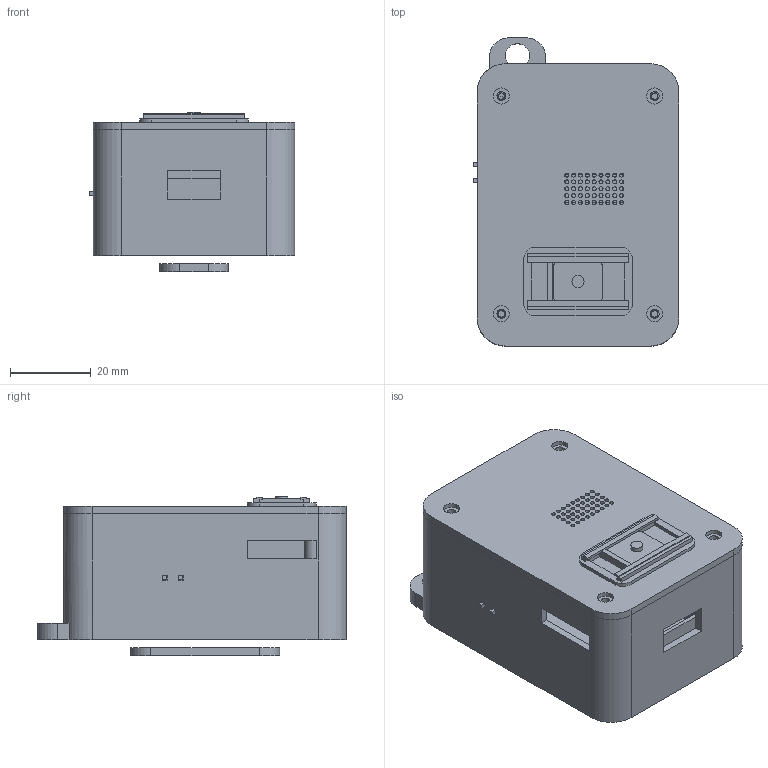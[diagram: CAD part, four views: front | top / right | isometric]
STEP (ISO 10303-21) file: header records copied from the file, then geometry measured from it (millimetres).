
FILE_DESCRIPTION(('Open CASCADE Model'),'2;1');
FILE_NAME('Open CASCADE Shape Model','2026-09-08T09:11:55',('Author'),( 'Open CASCADE'),'Open CASCADE STEP processor 7.9','Open CASCADE 7.9' ,'Unknown');
FILE_SCHEMA(('AUTOMOTIVE_DESIGN { 1 0 10303 214 1 1 1 1 }'));
Length unit declared in the file: millimetre
Products named in the file (1): COMPOUND
Bounding box: 51 x 76.5 x 39.5 mm (x, y, z)
Volume: 32023.5 mm3; surface area: 41063.1 mm2
Topology: 9 solids, 9 shells, 354 faces, 918 edges, 612 vertices
Faces by surface type: plane 222, cylinder 132
Full cylindrical faces by diameter (mm): 1 x45, 1.3 x1, 1.4 x2, 1.6 x4, 1.8 x2, 2.2 x4, 3 x1, 4 x6, 4.6 x8, 6.3 x4, 9 x1
Entity records: 22928 total; most frequent: CARTESIAN_POINT 4511, DIRECTION 3318, ORIENTED_EDGE 1836, PCURVE 1836, DEFINITIONAL_REPRESENTATION 1836, LINE 1828, VECTOR 1828, EDGE_CURVE 918
